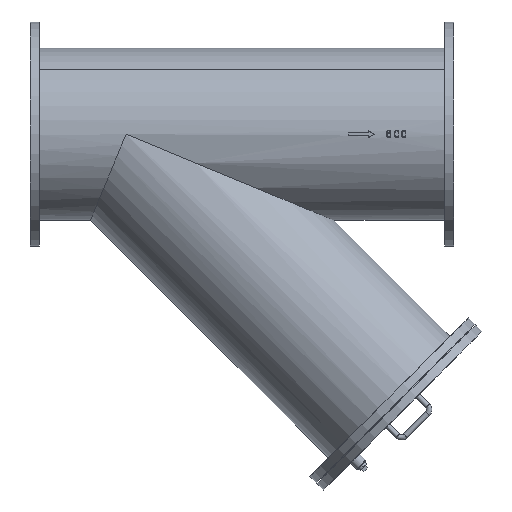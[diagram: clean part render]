
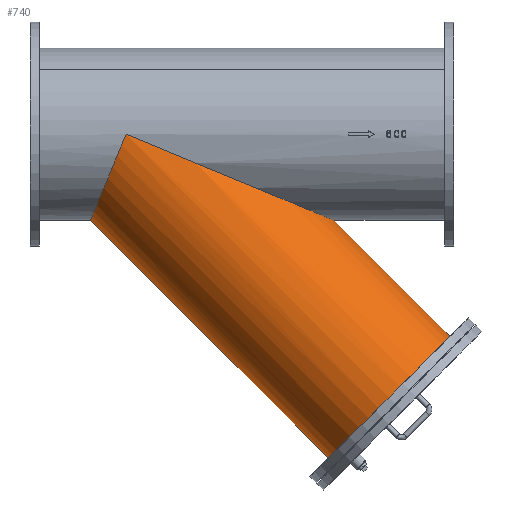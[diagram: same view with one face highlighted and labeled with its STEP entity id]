
A CAD part, front view. The second image highlights one B-rep face of the part: STEP entity #740.
In plain terms, the highlighted cylindrical face has radius 304.8 mm (diameter 609.6 mm), a partial arc.
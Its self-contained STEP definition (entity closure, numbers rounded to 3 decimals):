
#740=ADVANCED_FACE('',(#2486),#2485,.T.);
#2485=CYLINDRICAL_SURFACE('',#5431,304.8);
#2486=FACE_OUTER_BOUND('',#5432,.T.);
#5428=CARTESIAN_POINT('',(170.,0.,170.));
#5429=DIRECTION('',(-0.707,0.,0.707));
#5430=DIRECTION('',(0.707,0.,0.707));
#5431=AXIS2_PLACEMENT_3D('',#5428,#5429,#5430);
#5432=EDGE_LOOP('',(#7408,#7409,#7410,#7411,#7412));
#7408=ORIENTED_EDGE('',*,*,#8307,.F.);
#7409=ORIENTED_EDGE('',*,*,#8397,.T.);
#7410=ORIENTED_EDGE('',*,*,#8333,.F.);
#7411=ORIENTED_EDGE('',*,*,#8332,.F.);
#7412=ORIENTED_EDGE('',*,*,#8398,.F.);
#8307=EDGE_CURVE('',#11375,#11374,#11382,.T.);
#8332=EDGE_CURVE('',#11539,#11546,#11547,.T.);
#8333=EDGE_CURVE('',#11546,#11553,#11554,.T.);
#8397=EDGE_CURVE('',#11375,#11553,#11942,.T.);
#8398=EDGE_CURVE('',#11374,#11539,#11948,.T.);
#11374=VERTEX_POINT('',#15615);
#11375=VERTEX_POINT('',#15616);
#11382=CIRCLE('',#15624,304.8);
#11539=VERTEX_POINT('',#15878);
#11546=VERTEX_POINT('',#15882);
#11547=(BOUNDED_CURVE() B_SPLINE_CURVE(2,(#15883,#15884,#15885),.UNSPECIFIED.,.F.,.F.) B_SPLINE_CURVE_WITH_KNOTS((3,3),(6.283,7.854),.UNSPECIFIED.) CURVE() GEOMETRIC_REPRESENTATION_ITEM() RATIONAL_B_SPLINE_CURVE((1.,0.707,1.)) REPRESENTATION_ITEM('') );
#11553=VERTEX_POINT('',#15886);
#11554=(BOUNDED_CURVE() B_SPLINE_CURVE(2,(#15887,#15888,#15889),.UNSPECIFIED.,.F.,.F.) B_SPLINE_CURVE_WITH_KNOTS((3,3),(-4.712,-3.142),.UNSPECIFIED.) CURVE() GEOMETRIC_REPRESENTATION_ITEM() RATIONAL_B_SPLINE_CURVE((1.,0.707,1.)) REPRESENTATION_ITEM('') );
#11942=(BOUNDED_CURVE() B_SPLINE_CURVE(1,(#16113,#16114),.UNSPECIFIED.,.F.,.F.) B_SPLINE_CURVE_WITH_KNOTS((2,2),(0.007,0.443),.UNSPECIFIED.) CURVE() GEOMETRIC_REPRESENTATION_ITEM() RATIONAL_B_SPLINE_CURVE((1.,1.)) REPRESENTATION_ITEM('') );
#11948=(BOUNDED_CURVE() B_SPLINE_CURVE(1,(#16115,#16116),.UNSPECIFIED.,.F.,.F.) B_SPLINE_CURVE_WITH_KNOTS((2,2),(0.007,0.898),.UNSPECIFIED.) CURVE() GEOMETRIC_REPRESENTATION_ITEM() RATIONAL_B_SPLINE_CURVE((0.75,0.75)) REPRESENTATION_ITEM('') );
#15615=CARTESIAN_POINT('',(1056.441,0.,-1147.493));
#15616=CARTESIAN_POINT('',(1487.493,0.,-716.441));
#15621=CARTESIAN_POINT('',(1271.967,0.,-931.967));
#15622=DIRECTION('',(0.707,0.,-0.707));
#15623=DIRECTION('',(-0.707,0.,-0.707));
#15624=AXIS2_PLACEMENT_3D('',#15621,#15622,#15623);
#15878=CARTESIAN_POINT('',(213.748,0.,-304.8));
#15882=CARTESIAN_POINT('',(340.,-304.8,0.));
#15883=CARTESIAN_POINT('',(213.748,0.,-304.8));
#15884=CARTESIAN_POINT('',(213.748,-304.8,-304.8));
#15885=CARTESIAN_POINT('',(340.,-304.8,0.));
#15886=CARTESIAN_POINT('',(1075.852,0.,-304.8));
#15887=CARTESIAN_POINT('',(340.,-304.8,0.));
#15888=CARTESIAN_POINT('',(1075.852,-304.8,-304.8));
#15889=CARTESIAN_POINT('',(1075.852,0.,-304.8));
#16113=CARTESIAN_POINT('',(1487.493,0.,-716.441));
#16114=CARTESIAN_POINT('',(1075.852,0.,-304.8));
#16115=CARTESIAN_POINT('',(1056.441,0.,-1147.493));
#16116=CARTESIAN_POINT('',(213.748,0.,-304.8));
